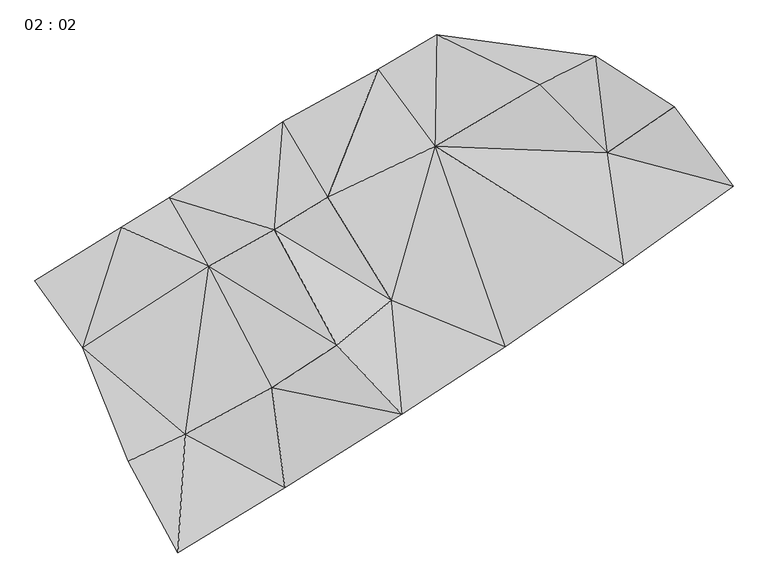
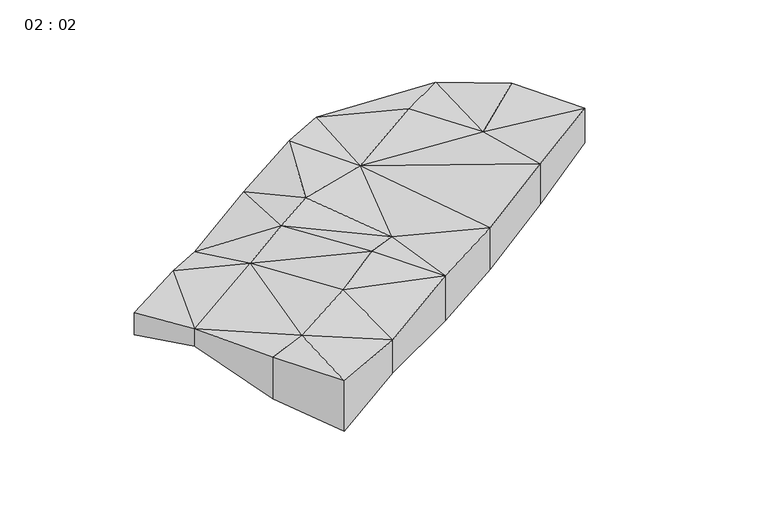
"""IFC4 building model written with IfcOpenShell, lengths in millimetres: proxy geometry, 02 : 02."""

import ifcopenshell
import ifcopenshell.guid

model = None  # the IFC model being written
_history = None  # IfcOwnerHistory: only IFC2X3 demands one
_inside = {}  # id of a spatial element -> (the spatial element, [elements in it])
_under = {}  # id of a project, library or spatial element -> (it, [spatial elements below it])
_declared = {}  # id of a project -> (the project, [libraries it declares])
_typed = {}  # id of a type object -> (the type object, [elements of that type])
_made_of = {}  # id of a material, layer set ... -> (it, [elements and type objects made of it])


def new_model(schema):
    """Start an empty IFC model of exactly this schema.

    Asked for "IFC4X3", IfcOpenShell would pick the latest addendum, in which some entities
    have other attributes; the version numbers below select the first issue.
    IFC2X3 requires an IfcOwnerHistory on every rooted entity: one is made here for all.
    """
    global model, _history
    if schema == "IFC4X3":
        model = ifcopenshell.file(schema_version=(4, 3, 0, 0))
    else:
        model = ifcopenshell.file(schema=schema)
    _inside.clear()
    _under.clear()
    _declared.clear()
    _typed.clear()
    _made_of.clear()
    _history = None
    if model.schema == "IFC2X3":
        org = make("IfcOrganization", Name="unknown")
        user = make(
            "IfcPersonAndOrganization",
            ThePerson=make("IfcPerson", FamilyName="unknown"),
            TheOrganization=org,
        )
        app = make(
            "IfcApplication",
            ApplicationDeveloper=org,
            Version="unknown",
            ApplicationFullName="unknown",
            ApplicationIdentifier="unknown",
        )
        _history = make(
            "IfcOwnerHistory",
            OwningUser=user,
            OwningApplication=app,
            ChangeAction="ADDED",
            CreationDate=0,
        )
    return model


def make(cls, **values):
    """One entity of the class cls with the attributes given. An attribute that is None is left unset."""
    return model.create_entity(
        cls, **{name: value for name, value in values.items() if value is not None}
    )


def rooted(cls, **values):
    """An entity with a GlobalId (a new one), such as an element, a storey or a relation."""
    return make(cls, GlobalId=ifcopenshell.guid.new(), OwnerHistory=_history, **values)


def si_unit(unit_type, name, prefix=None):
    """IfcSIUnit, for example si_unit("LENGTHUNIT", "METRE", prefix="MILLI")."""
    return make("IfcSIUnit", UnitType=unit_type, Prefix=prefix, Name=name)


def assignment(units):
    """IfcUnitAssignment: the units of a project."""
    return None if units is None else make("IfcUnitAssignment", Units=units)


def point(xyz):
    """IfcCartesianPoint."""
    return None if xyz is None else make("IfcCartesianPoint", Coordinates=xyz)


def direction(xyz):
    """IfcDirection."""
    return None if xyz is None else make("IfcDirection", DirectionRatios=xyz)


def frame(location, z_axis=None, x_axis=None):
    """IfcAxis2Placement3D, a coordinate frame: its origin and axes. An axis left out is left unset."""
    return make(
        "IfcAxis2Placement3D",
        Location=point(location),
        Axis=direction(z_axis),
        RefDirection=direction(x_axis),
    )


def origin():
    """The frame at (0, 0, 0) with its axes left unset."""
    return frame((0.0, 0.0, 0.0))


def place(relative_to, where):
    """IfcLocalPlacement: puts the frame where relative to a parent placement (None: the world)."""
    return make(
        "IfcLocalPlacement", PlacementRelTo=relative_to, RelativePlacement=where
    )


def context(
    kind, dimensions, precision=None, world=None, true_north=None, identifier=None
):
    """IfcGeometricRepresentationContext, for example the 3D "Model" context."""
    return make(
        "IfcGeometricRepresentationContext",
        ContextIdentifier=identifier,
        ContextType=kind,
        CoordinateSpaceDimension=dimensions,
        Precision=precision,
        WorldCoordinateSystem=world,
        TrueNorth=true_north,
    )


def project(units=None, contexts=None):
    """IfcProject with its units and contexts."""
    return rooted(
        "IfcProject",
        Name="project",
        RepresentationContexts=contexts,
        UnitsInContext=assignment(units),
    )


def spatial(cls, under=None, at=None, **own):
    """A site, building, storey or space (cls), placed at a placement, below another one or the project."""
    s = rooted(cls, ObjectPlacement=at, **own)
    if under is not None:
        _under.setdefault(under.id(), (under, []))[1].append(s)
    return s


def faces_of(points, faces, orient=None, outer=None):
    """IfcFace entities. A face is a list of loops; a loop is a list of indices into points, from 0.

    orient and outer hold one flag for each loop. By default every Orientation is true, the
    first loop of a face is its IfcFaceOuterBound and the others are IfcFaceBound.
    """
    made = []
    for i, loops in enumerate(faces):
        bounds = []
        for j, loop in enumerate(loops):
            is_outer = j == 0 if outer is None else outer[i][j]
            bounds.append(
                make(
                    "IfcFaceOuterBound" if is_outer else "IfcFaceBound",
                    Bound=make("IfcPolyLoop", Polygon=[points[k] for k in loop]),
                    Orientation=True if orient is None else orient[i][j],
                )
            )
        made.append(make("IfcFace", Bounds=bounds))
    return made


def faceted_brep(points, faces, orient=None, outer=None, voids=None):
    """IfcFacetedBrep: a solid bounded by flat faces; with voids (closed shells), ...WithVoids."""
    shared = [point(p) for p in points]
    hull = make("IfcClosedShell", CfsFaces=faces_of(shared, faces, orient, outer))
    if voids is None:
        return make("IfcFacetedBrep", Outer=hull)
    return make(
        "IfcFacetedBrepWithVoids",
        Outer=hull,
        Voids=[
            make(cls, CfsFaces=faces_of(shared, fs, o, b)) for cls, fs, o, b in voids
        ],
    )


def shape(context_of_items, identifier, shape_type, items):
    """IfcShapeRepresentation: the items that make up one representation, for example the "Body"."""
    return make(
        "IfcShapeRepresentation",
        ContextOfItems=context_of_items,
        RepresentationIdentifier=identifier,
        RepresentationType=shape_type,
        Items=items,
    )


def source(mapping_origin, context_of_items, identifier, shape_type, items):
    """IfcRepresentationMap: a shape defined once, which mapped items show again and again."""
    return make(
        "IfcRepresentationMap",
        MappingOrigin=mapping_origin,
        MappedRepresentation=shape(context_of_items, identifier, shape_type, items),
    )


def transform(
    local_origin,
    x_axis=None,
    y_axis=None,
    z_axis=None,
    scale=None,
    scale2=None,
    scale3=None,
    uniform=True,
):
    """IfcCartesianTransformationOperator3D, or its non-uniform kind. x_axis, y_axis, z_axis: its Axis1, 2, 3."""
    if uniform:
        return make(
            "IfcCartesianTransformationOperator3D",
            Axis1=direction(x_axis),
            Axis2=direction(y_axis),
            LocalOrigin=point(local_origin),
            Scale=scale,
            Axis3=direction(z_axis),
        )
    return make(
        "IfcCartesianTransformationOperator3DnonUniform",
        Axis1=direction(x_axis),
        Axis2=direction(y_axis),
        LocalOrigin=point(local_origin),
        Scale=scale,
        Axis3=direction(z_axis),
        Scale2=scale2,
        Scale3=scale3,
    )


def mapped(mapping_source, mapping_target):
    """IfcMappedItem: shows the shape of a source again, moved by a transform."""
    return make(
        "IfcMappedItem", MappingSource=mapping_source, MappingTarget=mapping_target
    )


def made_of(thing, what):
    """Note that an element or type object is made of a material, layer set ...; save() writes the relation."""
    if what is not None:
        _made_of.setdefault(what.id(), (what, []))[1].append(thing)
    return thing


def element(
    cls,
    number,
    at=None,
    inside=None,
    cuts=None,
    type_object=None,
    material=None,
    context=None,
    identifier="Body",
    shape_type=None,
    held_by="IfcProductDefinitionShape",
    body=None,
    shapes=None,
    **own,
):
    """One element of the class cls, such as IfcWall. Its Tag is "e" and its number.

    at: its placement. inside: the storey or other place that contains it. cuts: it is an
    opening in that element (IfcRelVoidsElement). A single representation is given by context,
    identifier, shape_type and body (its items); several are given by shapes. held_by: the class
    of the entity that holds the representations. save() writes the other relations.
    """
    e = rooted(cls, Tag="e%d" % number, ObjectPlacement=at, **own)
    if body is not None:
        shapes = [shape(context, identifier, shape_type, body)]
    if shapes is not None:
        e.Representation = make(held_by, Representations=shapes)
    if inside is not None:
        _inside.setdefault(inside.id(), (inside, []))[1].append(e)
    if cuts is not None:
        rooted(
            "IfcRelVoidsElement", RelatingBuildingElement=cuts, RelatedOpeningElement=e
        )
    if type_object is not None:
        _typed.setdefault(type_object.id(), (type_object, []))[1].append(e)
    return made_of(e, material)


def aggregate(whole, parts):
    """IfcRelAggregates: a whole, such as a stair, and the parts it consists of."""
    return rooted("IfcRelAggregates", RelatingObject=whole, RelatedObjects=parts)


def save(model, path):
    """Write the relations noted so far, then the file.

    IfcRelAggregates (storeys below a building ...), IfcRelContainedInSpatialStructure (elements
    in a storey), IfcRelDefinesByType, IfcRelAssociatesMaterial and IfcRelDeclares: one each for
    every whole, place, type object, material and project.
    """
    for whole, parts in _under.values():
        aggregate(whole, parts)
    for where, things in _inside.values():
        rooted(
            "IfcRelContainedInSpatialStructure",
            RelatedElements=things,
            RelatingStructure=where,
        )
    for kind, things in _typed.values():
        rooted("IfcRelDefinesByType", RelatedObjects=things, RelatingType=kind)
    for what, things in _made_of.values():
        rooted("IfcRelAssociatesMaterial", RelatedObjects=things, RelatingMaterial=what)
    for by, libraries in _declared.values():
        rooted("IfcRelDeclares", RelatingContext=by, RelatedDefinitions=libraries)
    model.write(path)


def proxy_02_02_8a4e72ec(model_context):
    return source(origin(), model_context, "Body", "Brep", [
        faceted_brep([(73370.7000001, 99048.0, 13880.0), (109246.9, 77446.0, 7420.0), (92535.7000001, 63691.9999998, 7300.0), (53257.2000002, 87840.0, 15770.0), (72638.0, 50626.9999998, 5810.0), (89776.3, 109001.0000005, 6120.0), (122674.7000003, 124652.0000001, 3040.0), (154708.2000001, 143430.0000003, 10440.0), (175415.7000004, 122621.0000001, 5340.0000001), (46060.6000001, 36347.9999998, 9200.0), (76004.4000002, 132169.0000003, 0.0), (41179.9000001, 108890.0000003, 5589.9999999), (26508.4, 99797.0000002, 14809.9999998), (0.0, 83486.0000003, 13290.0), (14635.4000001, 62941.9999998, 15380.0), (28569.7000002, 28094.0000001, 7380.0), (43823.3000002, 0.0, 3930.0), (175415.7000004, 122621.0000003, 22112.0000001), (154708.2, 143430.0000004, 27440.0), (122674.7000001, 124651.9999998, 23740.0), (109246.9000002, 77446.0000001, 24220.0), (89776.3000001, 109001.0000002, 29920.0), (76004.4000002, 132169.0000003, 23500.0), (73370.7000002, 99048.0, 28680.0), (92535.7000001, 63691.9999999, 31600.0), (41179.9000003, 108890.0000003, 21990.0), (43823.3000002, 0.0, 27330.0), (28569.7000002, 28094.0000001, 26480.0), (46060.6000002, 36347.9999995, 25700.0), (123220.0, 158777.0000001, 4860.0), (105193.7999998, 148285.0000004, 6060.0), (105193.7999998, 148285.0000004, 26960.0), (123219.9999999, 158777.0000001, 25260.0), (171825.7000002, 152292.0000001, 7970.0), (171825.7000002, 152292.0000001, 28370.0), (195922.7000002, 136696.0000002, 3400.0), (195922.7000002, 136696.0000002, 28900.0000001), (213997.9000001, 112464.9999999, 9770.0), (213997.9000001, 112464.9999999, 25670.0), (180474.7000001, 88274.0000002, 7660.0), (180474.7000001, 88274.0000002, 26360.0), (144182.7000001, 63139.0, 5580.0), (144182.7000001, 63139.0000001, 24780.0), (112500.0000002, 42504.0000002, 5260.0), (112500.0000001, 42504.0000002, 26260.0), (76585.3000001, 19975.9999998, 7390.0), (76585.3000001, 19975.9999998, 22790.0), (72638.0000001, 50626.9999999, 28710.0), (53257.1999999, 87840.0000004, 25270.0), (14635.4000001, 62941.9999998, 23580.0), (1e-07, 83486.0000001, 23490.0), (26508.4000001, 99796.9999998, 23810.0)], [[[0, 1, 2]], [[3, 2, 4]], [[0, 2, 3]], [[5, 1, 0]], [[6, 1, 5]], [[7, 8, 6]], [[3, 4, 9]], [[0, 10, 5]], [[3, 11, 0]], [[11, 10, 0]], [[12, 11, 3]], [[13, 12, 14]], [[3, 9, 14]], [[14, 12, 3]], [[14, 9, 15]], [[9, 16, 15]], [[17, 18, 19]], [[20, 19, 21]], [[22, 23, 21]], [[20, 21, 23]], [[20, 23, 24]], [[22, 25, 23]], [[10, 11, 25, 22]], [[15, 16, 26, 27]], [[26, 28, 27]], [[29, 30, 31, 32]], [[29, 7, 6]], [[29, 33, 7]], [[29, 6, 30]], [[30, 6, 5]], [[30, 10, 22, 31]], [[33, 29, 32, 34]], [[5, 10, 30]], [[19, 32, 31]], [[19, 31, 21]], [[31, 22, 21]], [[34, 32, 18]], [[18, 32, 19]], [[33, 35, 8]], [[33, 8, 7]], [[35, 33, 34, 36]], [[36, 34, 17]], [[17, 34, 18]], [[35, 37, 8]], [[37, 35, 36, 38]], [[38, 36, 17]], [[8, 37, 39]], [[39, 37, 38, 40]], [[38, 17, 40]], [[8, 39, 6]], [[6, 39, 41]], [[41, 39, 40, 42]], [[40, 17, 19]], [[40, 19, 42]], [[1, 41, 43]], [[6, 41, 1]], [[43, 41, 42, 44]], [[42, 20, 44]], [[42, 19, 20]], [[2, 43, 4]], [[1, 43, 2]], [[45, 43, 44, 46]], [[4, 43, 45]], [[44, 20, 24]], [[44, 47, 46]], [[44, 24, 47]], [[4, 45, 9]], [[9, 45, 16]], [[16, 45, 46, 26]], [[46, 28, 26]], [[46, 47, 28]], [[47, 48, 28]], [[24, 48, 47]], [[24, 23, 48]], [[25, 48, 23]], [[28, 49, 27]], [[14, 15, 27, 49]], [[13, 14, 49, 50]], [[51, 50, 49]], [[28, 48, 49]], [[25, 51, 48]], [[12, 13, 50, 51]], [[11, 12, 51, 25]], [[51, 49, 48]]]),
    ])


if __name__ == "__main__":
    model = new_model("IFC4")
    model_context = context("Model", 3, world=origin())
    ifc_project = project(units=[si_unit("LENGTHUNIT", "METRE", prefix="MILLI")], contexts=[model_context])
    site = spatial("IfcSite", under=ifc_project)
    building = spatial("IfcBuilding", under=site)
    placement = place(None, origin())
    proxy_02_02_shape = proxy_02_02_8a4e72ec(model_context)
    element("IfcBuildingElementProxy", 1, Name="02 : 02", ObjectType="02 : 02", at=placement, inside=building, context=model_context, shape_type="MappedRepresentation", body=[
        mapped(proxy_02_02_shape, transform((0.0, 0.0, 0.0), x_axis=(1.0, 0.0, 0.0), y_axis=(0.0, 1.0, 0.0), z_axis=(0.0, 0.0, 1.0))),
    ])
    save(model, "model.ifc")
